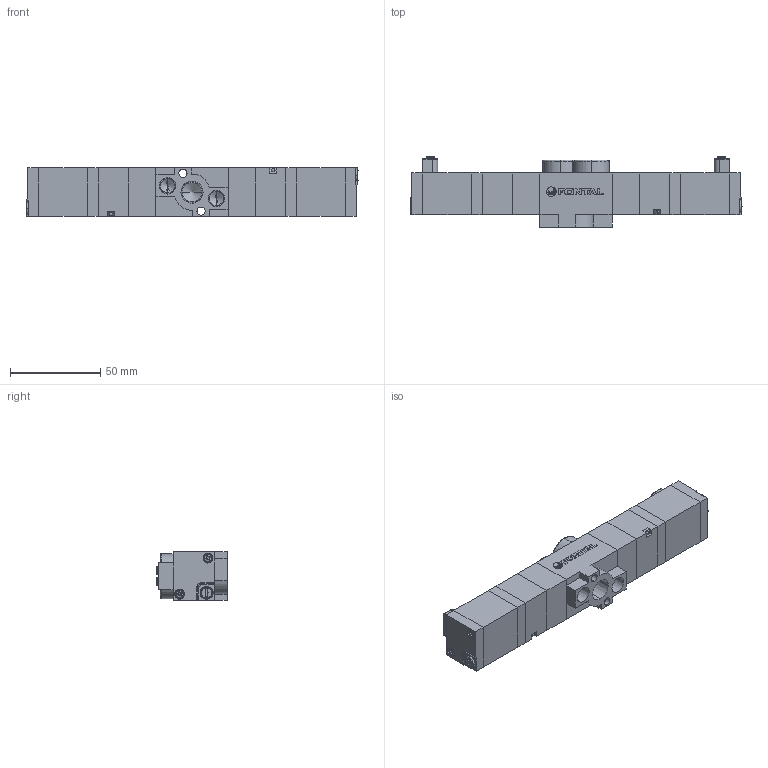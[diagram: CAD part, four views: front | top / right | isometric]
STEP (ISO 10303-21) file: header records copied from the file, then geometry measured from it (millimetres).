
FILE_DESCRIPTION (( 'STEP AP203' ), '1' );
FILE_NAME ('RCD(E¡BO)3406-02-#L##.STEP', '2016-02-04T06:08:04', ( 'Sam Lin' ), ( '' ), 'SwSTEP 2.0', 'SolidWorks 2013', '' );
FILE_SCHEMA (( 'CONFIG_CONTROL_DESIGN' ));
Length unit declared in the file: metre
Products named in the file (11): PCS2406-9; PC6-M3; RC06-5; PC06-MARK; RC06-6=L; RC06-1; RCD(E、O)3406-02-#L##; RC06-3; PCS2406-3-小圓珠; RC06-7=15; RC06-8=6
Assembly tree (20 placements, depth 2):
  RCD(E、O)3406-02-#L##
    PC06-MARK
    RC06-1
    RC06-3  x2
    PCS2406-3-小圓珠  x2
    RC06-7=15  x2
    RC06-8=6  x2
    PCS2406-9  x2
    PC6-M3  x4
    RC06-5  x2
    RC06-6=L  x2
Bounding box: 184 x 39 x 27.15 mm (x, y, z)
Volume: 113810.5 mm3; surface area: 39699.6 mm2
Topology: 26 solids, 26 shells, 526 faces, 1294 edges, 820 vertices
Faces by surface type: plane 289, cylinder 108, bspline 67, cone 62
Entity records: 12056 total; most frequent: CARTESIAN_POINT 2911, ORIENTED_EDGE 1602, DIRECTION 1575, EDGE_CURVE 801, AXIS2_PLACEMENT_3D 537, VERTEX_POINT 525, LINE 501, VECTOR 501
